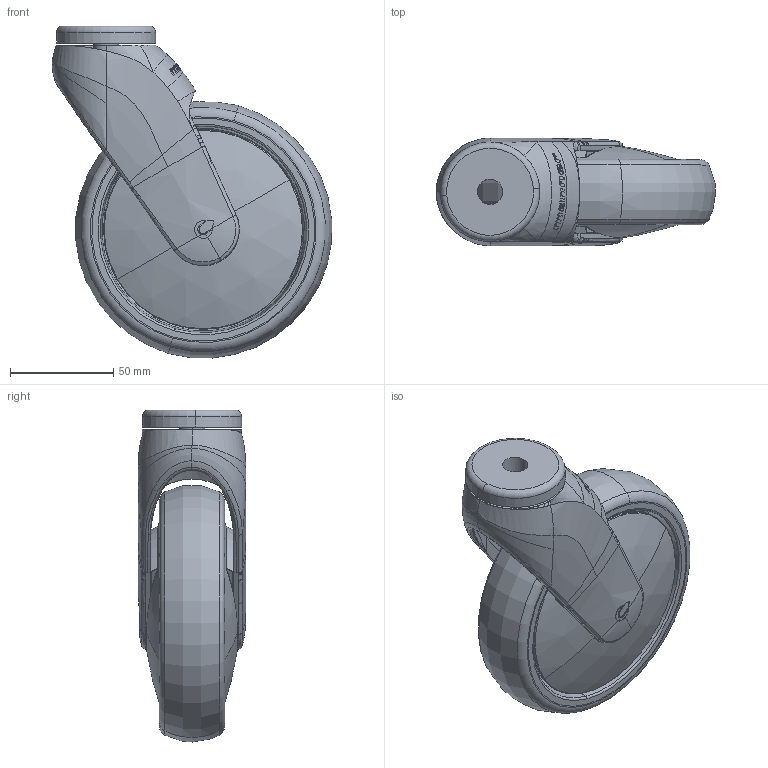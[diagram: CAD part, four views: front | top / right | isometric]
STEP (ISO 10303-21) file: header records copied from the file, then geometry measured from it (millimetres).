
FILE_DESCRIPTION (( 'STEP AP203' ), '1' );
FILE_NAME ('301643.STEP', '2010-03-18T05:30:54', ( ' ' ), ( ' ' ), 'SwSTEP 2.0', 'SolidWorks 2007', '' );
FILE_SCHEMA (( 'CONFIG_CONTROL_DESIGN' ));
Length unit declared in the file: millimetre
Products named in the file (1): 301643
Bounding box: 135.08 x 52.08 x 160.46 mm (x, y, z)
Surface area: 98357.8 mm2 (no closed solid volume)
Topology: 0 solids, 12 shells, 360 faces, 1291 edges, 886 vertices
Faces by surface type: bspline 211, plane 51, torus 41, cylinder 29, cone 22, sphere 6
Entity records: 92967 total; most frequent: CARTESIAN_POINT 84598, ORIENTED_EDGE 2160, EDGE_CURVE 1286, VERTEX_POINT 886, DIRECTION 862, B_SPLINE_CURVE_WITH_KNOTS 852, EDGE_LOOP 386, AXIS2_PLACEMENT_3D 363
